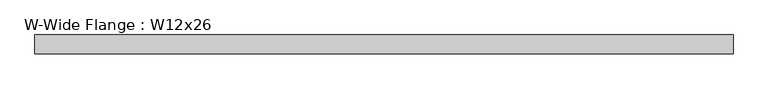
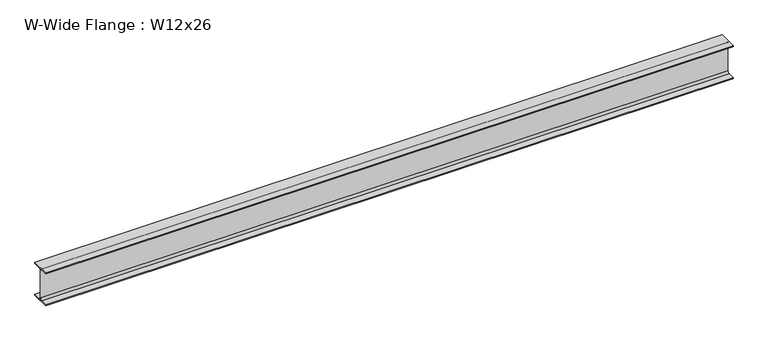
"""IFC4 building model written with IfcOpenShell, lengths in millimetres: beam geometry, W-Wide Flange : W12x26."""

from ifc_helpers import new_model, si_unit, point, frame, frame_2d, origin, place, context, project, spatial, polyline, circle_curve, trimmed, segment, composite_curve, outline, extrude, source, transform, mapped, element, save


def w_wide_flange_w12x26_6bea11c7(model_context):
    return source(origin(), model_context, "Body", "SweptSolid", [
        extrude(outline(composite_curve([segment(polyline([(82.423, -145.288), (82.423, -154.94), (-82.423, -154.94), (-82.423, -145.288), (-20.2565, -145.288)]), True, "CONTINUOUS"), segment(trimmed(circle_curve(frame_2d((-20.2565, -127.9525)), 17.3355), [point((-20.2565, -145.288))], [point((-2.921, -127.9525))], True, "CARTESIAN"), True, "CONTINUOUS"), segment(polyline([(-2.921, -127.9525), (-2.921, 127.9525)]), True, "CONTINUOUS"), segment(trimmed(circle_curve(frame_2d((-20.2565, 127.9525)), 17.3355), [point((-2.921, 127.9525))], [point((-20.2565, 145.288))], True, "CARTESIAN"), True, "CONTINUOUS"), segment(polyline([(-20.2565, 145.288), (-82.423, 145.288), (-82.423, 154.94), (82.423, 154.94), (82.423, 145.288), (20.2565, 145.288)]), True, "CONTINUOUS"), segment(trimmed(circle_curve(frame_2d((20.2565, 127.9525)), 17.3355), [point((20.2565, 145.288))], [point((2.921, 127.9525))], True, "CARTESIAN"), True, "CONTINUOUS"), segment(polyline([(2.921, 127.9525), (2.921, -127.9525)]), True, "CONTINUOUS"), segment(trimmed(circle_curve(frame_2d((20.2565, -127.9525)), 17.3355), [point((2.921, -127.9525))], [point((20.2565, -145.288))], True, "CARTESIAN"), True, "CONTINUOUS"), segment(polyline([(20.2565, -145.288), (82.423, -145.288)]), True, "CONTINUOUS")], self_intersect=False)), frame((-2959.1, 0.0, 0.0), z_axis=(1.0, 0.0, 0.0), x_axis=(0.0, 1.0, 0.0)), (0.0, 0.0, 1.0), 6073.013),
    ])


if __name__ == "__main__":
    model = new_model("IFC4")
    model_context = context("Model", 3, world=origin())
    ifc_project = project(units=[si_unit("LENGTHUNIT", "METRE", prefix="MILLI")], contexts=[model_context])
    site = spatial("IfcSite", under=ifc_project)
    building = spatial("IfcBuilding", under=site)
    placement = place(None, origin())
    w_wide_flange_w12x26_shape = w_wide_flange_w12x26_6bea11c7(model_context)
    element("IfcBeam", 1, ObjectType="W-Wide Flange : W12x26", at=placement, inside=building, context=model_context, shape_type="MappedRepresentation", body=[
        mapped(w_wide_flange_w12x26_shape, transform((0.0, 0.0, 0.0), x_axis=(1.0, 0.0, 0.0), y_axis=(0.0, 1.0, 0.0), z_axis=(0.0, 0.0, 1.0))),
    ])
    save(model, "model.ifc")
